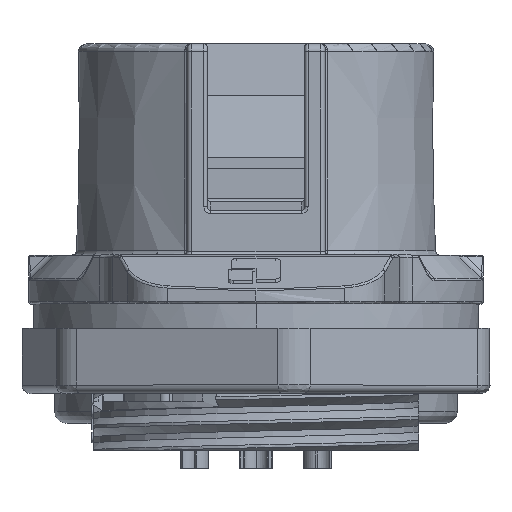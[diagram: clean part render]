
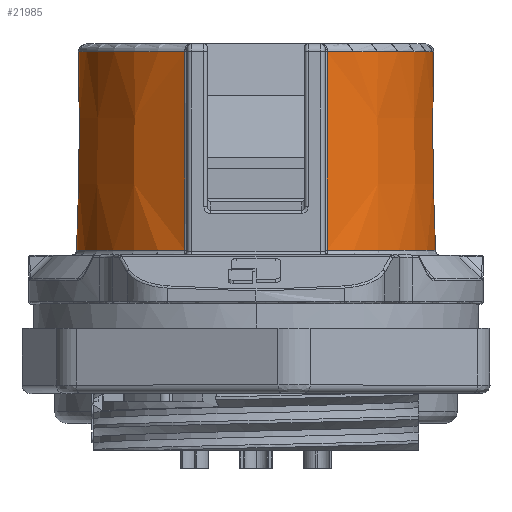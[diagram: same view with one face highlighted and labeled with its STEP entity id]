
A CAD part, top view. The second image highlights one B-rep face of the part: STEP entity #21985.
In plain terms, the highlighted conical face has half-angle 0.5 degrees and reference radius 11.05 mm.
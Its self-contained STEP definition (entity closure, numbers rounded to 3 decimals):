
#1146 = CARTESIAN_POINT ( 'NONE',  ( -4.371, 34.164, 10.132 ) ) ;
#1249 = CARTESIAN_POINT ( 'NONE',  ( 0., 44.904, 0. ) ) ;
#2425 = EDGE_LOOP ( 'NONE', ( #41800, #37331, #52924, #19315 ) ) ;
#2439 = CARTESIAN_POINT ( 'NONE',  ( -4.37, 43.635, 10.042 ) ) ;
#4840 = CIRCLE ( 'NONE', #46046, 11.047 ) ;
#4893 = CARTESIAN_POINT ( 'NONE',  ( 0., 32.697, 0. ) ) ;
#6424 = CARTESIAN_POINT ( 'NONE',  ( -4.371, 34.697, 10.127 ) ) ;
#7779 = CARTESIAN_POINT ( 'NONE',  ( 4.37, 44.504, 10.034 ) ) ;
#11243 = CARTESIAN_POINT ( 'NONE',  ( -4.371, 36.831, 10.107 ) ) ;
#12559 = VERTEX_POINT ( 'NONE', #41764 ) ;
#12764 = CARTESIAN_POINT ( 'NONE',  ( -4.37, 38.964, 10.087 ) ) ;
#12814 = DIRECTION ( 'NONE',  ( 0., 0., 1. ) ) ;
#12969 = CARTESIAN_POINT ( 'NONE',  ( -4.37, 42.366, 10.054 ) ) ;
#13624 = AXIS2_PLACEMENT_3D ( 'NONE', #1249, #51542, #61035 ) ;
#13656 = CARTESIAN_POINT ( 'NONE',  ( 4.371, 36.505, 10.11 ) ) ;
#15289 = EDGE_CURVE ( 'NONE', #45586, #12559, #55364, .T. ) ;
#16075 = CARTESIAN_POINT ( 'NONE',  ( -4.371, 32.697, 10.146 ) ) ;
#16785 = CIRCLE ( 'NONE', #13624, 10.941 ) ;
#17855 = CARTESIAN_POINT ( 'NONE',  ( 4.37, 42.904, 10.049 ) ) ;
#18510 = CARTESIAN_POINT ( 'NONE',  ( 4.37, 44.638, 10.033 ) ) ;
#19315 = ORIENTED_EDGE ( 'NONE', *, *, #47581, .T. ) ;
#21124 = CARTESIAN_POINT ( 'NONE',  ( -4.371, 32.831, 10.145 ) ) ;
#21139 = CONICAL_SURFACE ( 'NONE', #50587, 11.05, 0.009 ) ;
#21985 = ADVANCED_FACE ( 'NONE', ( #58105 ), #21139, .T. ) ;
#24409 = VERTEX_POINT ( 'NONE', #50607 ) ;
#26184 = CARTESIAN_POINT ( 'NONE',  ( -4.371, 32.964, 10.143 ) ) ;
#27709 = CARTESIAN_POINT ( 'NONE',  ( 4.371, 32.697, 10.146 ) ) ;
#28626 = CARTESIAN_POINT ( 'NONE',  ( 4.37, 43.438, 10.044 ) ) ;
#32297 = VERTEX_POINT ( 'NONE', #27709 ) ;
#32592 = CARTESIAN_POINT ( 'NONE',  ( 0., 32.4, 0. ) ) ;
#36277 = CARTESIAN_POINT ( 'NONE',  ( -4.371, 33.097, 10.142 ) ) ;
#37331 = ORIENTED_EDGE ( 'NONE', *, *, #15289, .T. ) ;
#37627 = DIRECTION ( 'NONE',  ( 0., -1., 0. ) ) ;
#37837 = CARTESIAN_POINT ( 'NONE',  ( 4.371, 35.236, 10.122 ) ) ;
#38010 = CARTESIAN_POINT ( 'NONE',  ( -4.37, 41.097, 10.066 ) ) ;
#38062 = CARTESIAN_POINT ( 'NONE',  ( 4.37, 44.771, 10.031 ) ) ;
#38801 = EDGE_CURVE ( 'NONE', #32297, #45586, #4840, .T. ) ;
#39825 = DIRECTION ( 'NONE',  ( 0., 0., -1. ) ) ;
#41764 = CARTESIAN_POINT ( 'NONE',  ( -4.37, 44.904, 10.03 ) ) ;
#41800 = ORIENTED_EDGE ( 'NONE', *, *, #38801, .T. ) ;
#42191 = CARTESIAN_POINT ( 'NONE',  ( -4.37, 44.904, 10.03 ) ) ;
#43534 = CARTESIAN_POINT ( 'NONE',  ( 4.37, 44.904, 10.03 ) ) ;
#43740 = CARTESIAN_POINT ( 'NONE',  ( 4.371, 38.638, 10.09 ) ) ;
#44310 = CARTESIAN_POINT ( 'NONE',  ( -4.371, 32.697, 10.146 ) ) ;
#45586 = VERTEX_POINT ( 'NONE', #44310 ) ;
#46046 = AXIS2_PLACEMENT_3D ( 'NONE', #4893, #59155, #39825 ) ;
#47581 = EDGE_CURVE ( 'NONE', #24409, #32297, #61797, .T. ) ;
#48808 = CARTESIAN_POINT ( 'NONE',  ( 4.371, 33.967, 10.134 ) ) ;
#50587 = AXIS2_PLACEMENT_3D ( 'NONE', #32592, #37627, #12814 ) ;
#50607 = CARTESIAN_POINT ( 'NONE',  ( 4.37, 44.904, 10.03 ) ) ;
#51542 = DIRECTION ( 'NONE',  ( 0., -1., 0. ) ) ;
#52924 = ORIENTED_EDGE ( 'NONE', *, *, #53622, .T. ) ;
#53016 = CARTESIAN_POINT ( 'NONE',  ( 4.371, 32.697, 10.146 ) ) ;
#53622 = EDGE_CURVE ( 'NONE', #12559, #24409, #16785, .T. ) ;
#53652 = CARTESIAN_POINT ( 'NONE',  ( 4.37, 43.971, 10.039 ) ) ;
#55364 = B_SPLINE_CURVE_WITH_KNOTS ( 'NONE', 3,
 ( #16075, #21124, #26184, #36277, #61360, #1146, #6424, #11243, #12764, #38010, #12969, #2439, #42191 ),
 .UNSPECIFIED., .F., .F.,
 ( 4, 3, 3, 3, 4 ),
 ( 0., 0., 0.002, 0.008, 0.012 ),
 .UNSPECIFIED. ) ;
#58105 = FACE_OUTER_BOUND ( 'NONE', #2425, .T. ) ;
#59155 = DIRECTION ( 'NONE',  ( 0., 1., 0. ) ) ;
#61035 = DIRECTION ( 'NONE',  ( 0., 0., 1. ) ) ;
#61360 = CARTESIAN_POINT ( 'NONE',  ( -4.371, 33.631, 10.137 ) ) ;
#61797 = B_SPLINE_CURVE_WITH_KNOTS ( 'NONE', 3,
 ( #43534, #38062, #18510, #7779, #53652, #28626, #17855, #63789, #43740, #13656, #37837, #48808, #53016 ),
 .UNSPECIFIED., .F., .F.,
 ( 4, 3, 3, 3, 4 ),
 ( 0., 0., 0.002, 0.008, 0.012 ),
 .UNSPECIFIED. ) ;
#63789 = CARTESIAN_POINT ( 'NONE',  ( 4.37, 40.771, 10.069 ) ) ;
